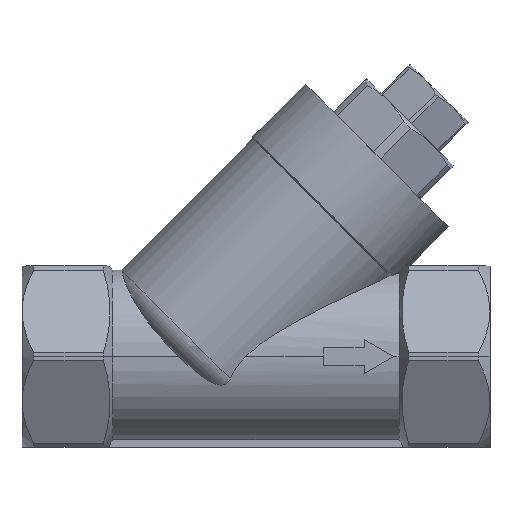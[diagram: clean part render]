
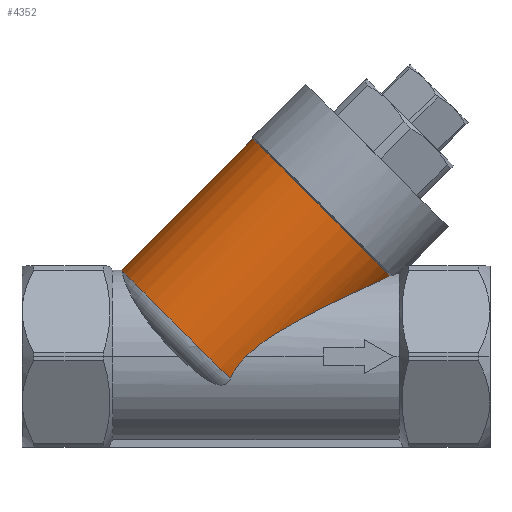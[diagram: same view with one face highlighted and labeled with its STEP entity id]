
A CAD part, top view. The second image highlights one B-rep face of the part: STEP entity #4352.
In plain terms, the highlighted cylindrical face has radius 17 mm (diameter 34 mm), a partial arc.
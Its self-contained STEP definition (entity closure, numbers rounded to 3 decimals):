
#48 = CARTESIAN_POINT ( 'NONE',  ( 22.92, 13.774, 5.277 ) ) ;
#68 = CARTESIAN_POINT ( 'NONE',  ( 19.287, 12.111, 8.429 ) ) ;
#78 = CARTESIAN_POINT ( 'NONE',  ( 0.653, 2.066, 14.609 ) ) ;
#87 = CARTESIAN_POINT ( 'NONE',  ( -4.417, -3.833, 14.243 ) ) ;
#139 = CARTESIAN_POINT ( 'NONE',  ( -3.061, -1.48, 14.679 ) ) ;
#315 = VERTEX_POINT ( 'NONE', #2824 ) ;
#430 = CARTESIAN_POINT ( 'NONE',  ( 17.768, 11.404, 9.363 ) ) ;
#439 = CARTESIAN_POINT ( 'NONE',  ( -0.833, 0.872, 14.73 ) ) ;
#493 = CARTESIAN_POINT ( 'NONE',  ( -3.721, -2.449, 14.549 ) ) ;
#512 = AXIS2_PLACEMENT_3D ( 'NONE', #961, #4330, #3901 ) ;
#524 = CARTESIAN_POINT ( 'NONE',  ( 19.271, 57.021, 0. ) ) ;
#528 = LINE ( 'NONE', #524, #4062 ) ;
#539 = AXIS2_PLACEMENT_3D ( 'NONE', #2109, #4393, #2470 ) ;
#623 = B_SPLINE_CURVE_WITH_KNOTS ( 'NONE', 3,
 ( #48, #2163, #3556, #1483, #3853, #1822, #4162, #2178, #68, #2541, #430, #2896, #784, #3243, #1148, #3570, #1500, #3871, #1843, #4177, #2193, #78, #2555, #439, #2910, #803 ),
 .UNSPECIFIED., .F., .F.,
 ( 4, 2, 2, 2, 2, 2, 2, 2, 2, 2, 2, 2, 4 ),
 ( 0.003, 0.004, 0.005, 0.007, 0.009, 0.011, 0.014, 0.018, 0.022, 0.026, 0.03, 0.032, 0.034 ),
 .UNSPECIFIED. ) ;
#784 = CARTESIAN_POINT ( 'NONE',  ( 15.158, 10.171, 10.704 ) ) ;
#803 = CARTESIAN_POINT ( 'NONE',  ( -1.755, 0., 14.75 ) ) ;
#859 = CARTESIAN_POINT ( 'NONE',  ( -4.269, -3.478, 14.339 ) ) ;
#961 = CARTESIAN_POINT ( 'NONE',  ( 11.493, 25.201, 0. ) ) ;
#1148 = CARTESIAN_POINT ( 'NONE',  ( 11.949, 8.607, 11.996 ) ) ;
#1202 = CARTESIAN_POINT ( 'NONE',  ( -2.033, -0.278, 14.75 ) ) ;
#1483 = CARTESIAN_POINT ( 'NONE',  ( 22.087, 13.396, 6.179 ) ) ;
#1500 = CARTESIAN_POINT ( 'NONE',  ( 8.692, 6.945, 13.029 ) ) ;
#1607 = DIRECTION ( 'NONE',  ( -0.707, 0.707, 0. ) ) ;
#1666 = EDGE_CURVE ( 'NONE', #3010, #2086, #3044, .T. ) ;
#1822 = CARTESIAN_POINT ( 'NONE',  ( 21.199, 12.99, 7.001 ) ) ;
#1843 = CARTESIAN_POINT ( 'NONE',  ( 5.416, 5.15, 13.838 ) ) ;
#2086 = VERTEX_POINT ( 'NONE', #2680 ) ;
#2109 = CARTESIAN_POINT ( 'NONE',  ( -10.979, 2.729, 0. ) ) ;
#2163 = CARTESIAN_POINT ( 'NONE',  ( 22.721, 13.684, 5.511 ) ) ;
#2178 = CARTESIAN_POINT ( 'NONE',  ( 19.779, 12.338, 8.094 ) ) ;
#2193 = CARTESIAN_POINT ( 'NONE',  ( 2.2, 3.178, 14.423 ) ) ;
#2253 = CARTESIAN_POINT ( 'NONE',  ( -2.817, -1.168, 14.707 ) ) ;
#2333 = CARTESIAN_POINT ( 'NONE',  ( -1.755, 0., 14.75 ) ) ;
#2445 = CARTESIAN_POINT ( 'NONE',  ( -0.528, 37.222, 0. ) ) ;
#2470 = DIRECTION ( 'NONE',  ( -0.707, 0.707, 0. ) ) ;
#2489 = B_SPLINE_CURVE_WITH_KNOTS ( 'NONE', 3,
 ( #3915, #1202, #4222, #2253, #139, #2613, #493, #2962, #859, #3308 ),
 .UNSPECIFIED., .F., .F.,
 ( 4, 2, 2, 2, 4 ),
 ( 0.034, 0.035, 0.036, 0.037, 0.038 ),
 .UNSPECIFIED. ) ;
#2541 = CARTESIAN_POINT ( 'NONE',  ( 18.282, 11.644, 9.063 ) ) ;
#2555 = CARTESIAN_POINT ( 'NONE',  ( 0.145, 1.68, 14.66 ) ) ;
#2576 = CYLINDRICAL_SURFACE ( 'NONE', #3735, 17. ) ;
#2613 = CARTESIAN_POINT ( 'NONE',  ( -3.513, -2.12, 14.6 ) ) ;
#2677 = FACE_OUTER_BOUND ( 'NONE', #2866, .T. ) ;
#2680 = CARTESIAN_POINT ( 'NONE',  ( 22.92, 13.774, 5.277 ) ) ;
#2697 = ORIENTED_EDGE ( 'NONE', *, *, #4180, .F. ) ;
#2824 = CARTESIAN_POINT ( 'NONE',  ( -23., 14.75, 0. ) ) ;
#2866 = EDGE_LOOP ( 'NONE', ( #2697, #2941, #3452, #3403, #3458 ) ) ;
#2896 = CARTESIAN_POINT ( 'NONE',  ( 16.213, 10.673, 10.208 ) ) ;
#2910 = CARTESIAN_POINT ( 'NONE',  ( -1.306, 0.449, 14.75 ) ) ;
#2914 = CIRCLE ( 'NONE', #539, 17. ) ;
#2941 = ORIENTED_EDGE ( 'NONE', *, *, #3989, .T. ) ;
#2962 = CARTESIAN_POINT ( 'NONE',  ( -4.098, -3.127, 14.419 ) ) ;
#2986 = DIRECTION ( 'NONE',  ( 0.707, 0.707, 0. ) ) ;
#3010 = VERTEX_POINT ( 'NONE', #2445 ) ;
#3044 = CIRCLE ( 'NONE', #512, 17. ) ;
#3243 = CARTESIAN_POINT ( 'NONE',  ( 13.026, 9.138, 11.599 ) ) ;
#3308 = CARTESIAN_POINT ( 'NONE',  ( -4.417, -3.833, 14.243 ) ) ;
#3362 = VERTEX_POINT ( 'NONE', #87 ) ;
#3365 = DIRECTION ( 'NONE',  ( 0.707, 0.707, 0. ) ) ;
#3403 = ORIENTED_EDGE ( 'NONE', *, *, #4067, .F. ) ;
#3452 = ORIENTED_EDGE ( 'NONE', *, *, #4140, .F. ) ;
#3458 = ORIENTED_EDGE ( 'NONE', *, *, #1666, .F. ) ;
#3556 = CARTESIAN_POINT ( 'NONE',  ( 22.514, 13.59, 5.74 ) ) ;
#3570 = CARTESIAN_POINT ( 'NONE',  ( 9.782, 7.51, 12.712 ) ) ;
#3684 = CARTESIAN_POINT ( 'NONE',  ( 31.292, 45., 0. ) ) ;
#3696 = VERTEX_POINT ( 'NONE', #2333 ) ;
#3735 = AXIS2_PLACEMENT_3D ( 'NONE', #3684, #3365, #1607 ) ;
#3853 = CARTESIAN_POINT ( 'NONE',  ( 21.869, 13.296, 6.39 ) ) ;
#3871 = CARTESIAN_POINT ( 'NONE',  ( 6.51, 5.765, 13.593 ) ) ;
#3901 = DIRECTION ( 'NONE',  ( -0.707, 0.707, 0. ) ) ;
#3915 = CARTESIAN_POINT ( 'NONE',  ( -1.755, 0., 14.75 ) ) ;
#3989 = EDGE_CURVE ( 'NONE', #315, #3362, #2914, .T. ) ;
#4062 = VECTOR ( 'NONE', #2986, 1000. ) ;
#4067 = EDGE_CURVE ( 'NONE', #2086, #3696, #623, .T. ) ;
#4140 = EDGE_CURVE ( 'NONE', #3696, #3362, #2489, .T. ) ;
#4162 = CARTESIAN_POINT ( 'NONE',  ( 20.735, 12.778, 7.38 ) ) ;
#4177 = CARTESIAN_POINT ( 'NONE',  ( 3.263, 3.857, 14.253 ) ) ;
#4180 = EDGE_CURVE ( 'NONE', #315, #3010, #528, .T. ) ;
#4222 = CARTESIAN_POINT ( 'NONE',  ( -2.302, -0.566, 14.742 ) ) ;
#4330 = DIRECTION ( 'NONE',  ( 0.707, 0.707, 0. ) ) ;
#4352 = ADVANCED_FACE ( 'NONE', ( #2677 ), #2576, .T. ) ;
#4393 = DIRECTION ( 'NONE',  ( 0.707, 0.707, 0. ) ) ;
